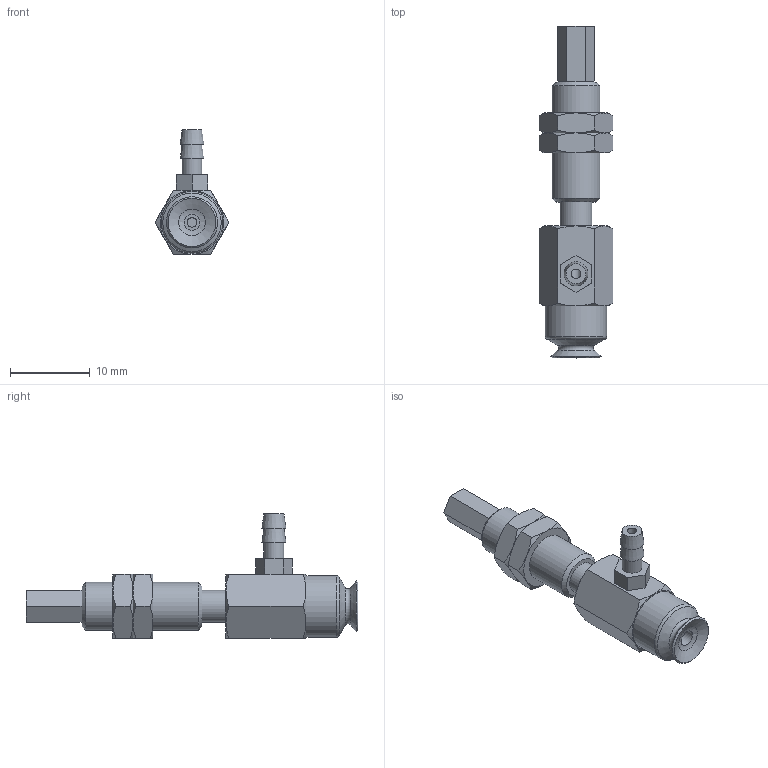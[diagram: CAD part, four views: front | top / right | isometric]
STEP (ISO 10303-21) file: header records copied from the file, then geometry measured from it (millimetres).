
FILE_DESCRIPTION(('STEP AP203'),'1');
FILE_NAME('-T.stp','2025-04-09T05:37:16',(' '),(' '),'Spatial InterOp 3D',' ',' ');
FILE_SCHEMA(('CONFIG_CONTROL_DESIGN'));
Length unit declared in the file: millimetre
Products named in the file (7): BNABPFYS-6A-3-※-T; CONNECTOR-6A-3; Nut-6A-3-s; NAPFTS-6A-3-FBODY; NAPFTS-6A-3-MBODY; BPFG-6A-※; T (2)
Assembly tree (7 placements, depth 2):
  BNABPFYS-6A-3-※-T
    CONNECTOR-6A-3
    Nut-6A-3-s  x2
    NAPFTS-6A-3-FBODY
    NAPFTS-6A-3-MBODY
    BPFG-6A-※
    T (2)
Bounding box: 9.24 x 41.5 x 15.6 mm (x, y, z)
Volume: 1509.8 mm3; surface area: 2343.4 mm2
Topology: 7 solids, 7 shells, 149 faces, 314 edges, 189 vertices
Faces by surface type: plane 68, cone 55, cylinder 18, torus 7, bspline 1
Full cylindrical faces by diameter (mm): 1.2 x2, 2 x1, 2.459 x2, 2.5 x1, 3 x2, 4 x4, 5.188 x2, 6 x3, 7.7 x1
Entity records: 3675 total; most frequent: CARTESIAN_POINT 851, DIRECTION 520, ORIENTED_EDGE 436, AXIS2_PLACEMENT_3D 223, EDGE_CURVE 218, EDGE_LOOP 188, VERTEX_POINT 154, FACE_OUTER_BOUND 151
